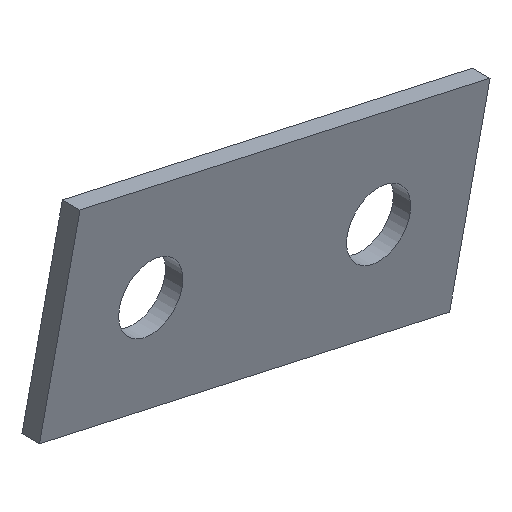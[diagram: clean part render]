
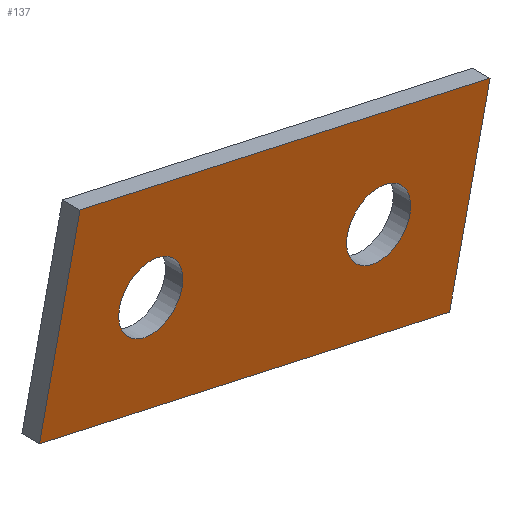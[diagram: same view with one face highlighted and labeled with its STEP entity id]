
A CAD part, isometric view. The second image highlights one B-rep face of the part: STEP entity #137.
In plain terms, the highlighted planar face has unit normal (0, -1, 0).
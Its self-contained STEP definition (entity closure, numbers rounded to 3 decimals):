
#21 = EDGE_CURVE('',#22,#24,#26,.T.);
#22 = VERTEX_POINT('',#23);
#23 = CARTESIAN_POINT('',(-36.611,-18.5,54.414));
#24 = VERTEX_POINT('',#25);
#25 = CARTESIAN_POINT('',(-33.148,-18.5,70.035));
#26 = SURFACE_CURVE('',#27,(#31,#43),.PCURVE_S1.);
#27 = LINE('',#28,#29);
#28 = CARTESIAN_POINT('',(-36.611,-18.5,54.414));
#29 = VECTOR('',#30,1.);
#30 = DIRECTION('',(0.216,0.,0.976));
#31 = PCURVE('',#32,#37);
#32 = PLANE('',#33);
#33 = AXIS2_PLACEMENT_3D('',#34,#35,#36);
#34 = CARTESIAN_POINT('',(-36.611,-18.5,54.414));
#35 = DIRECTION('',(0.976,0.,-0.216));
#36 = DIRECTION('',(0.216,0.,0.976));
#37 = DEFINITIONAL_REPRESENTATION('',(#38),#42);
#38 = LINE('',#39,#40);
#39 = CARTESIAN_POINT('',(0.,0.));
#40 = VECTOR('',#41,1.);
#41 = DIRECTION('',(1.,0.));
#42 = ( GEOMETRIC_REPRESENTATION_CONTEXT(2) 
PARAMETRIC_REPRESENTATION_CONTEXT() REPRESENTATION_CONTEXT('2D SPACE',''
  ) );
#43 = PCURVE('',#44,#49);
#44 = PLANE('',#45);
#45 = AXIS2_PLACEMENT_3D('',#46,#47,#48);
#46 = CARTESIAN_POINT('',(-36.611,-18.5,54.414));
#47 = DIRECTION('',(0.,1.,0.));
#48 = DIRECTION('',(0.216,0.,0.976));
#49 = DEFINITIONAL_REPRESENTATION('',(#50),#54);
#50 = LINE('',#51,#52);
#51 = CARTESIAN_POINT('',(0.,0.));
#52 = VECTOR('',#53,1.);
#53 = DIRECTION('',(1.,0.));
#54 = ( GEOMETRIC_REPRESENTATION_CONTEXT(2) 
PARAMETRIC_REPRESENTATION_CONTEXT() REPRESENTATION_CONTEXT('2D SPACE',''
  ) );
#72 = PLANE('',#73);
#73 = AXIS2_PLACEMENT_3D('',#74,#75,#76);
#74 = CARTESIAN_POINT('',(-36.611,-18.5,54.414));
#75 = DIRECTION('',(0.216,0.,0.976));
#76 = DIRECTION('',(0.976,0.,-0.216));
#126 = PLANE('',#127);
#127 = AXIS2_PLACEMENT_3D('',#128,#129,#130);
#128 = CARTESIAN_POINT('',(-33.148,-18.5,70.035));
#129 = DIRECTION('',(0.216,0.,0.976));
#130 = DIRECTION('',(0.976,0.,-0.216));
#137 = ADVANCED_FACE('',(#138,#213,#248),#44,.F.);
#138 = FACE_BOUND('',#139,.F.);
#139 = EDGE_LOOP('',(#140,#163,#164,#187));
#140 = ORIENTED_EDGE('',*,*,#141,.F.);
#141 = EDGE_CURVE('',#22,#142,#144,.T.);
#142 = VERTEX_POINT('',#143);
#143 = CARTESIAN_POINT('',(-1.464,-18.5,46.622));
#144 = SURFACE_CURVE('',#145,(#149,#156),.PCURVE_S1.);
#145 = LINE('',#146,#147);
#146 = CARTESIAN_POINT('',(-36.611,-18.5,54.414));
#147 = VECTOR('',#148,1.);
#148 = DIRECTION('',(0.976,0.,-0.216));
#149 = PCURVE('',#44,#150);
#150 = DEFINITIONAL_REPRESENTATION('',(#151),#155);
#151 = LINE('',#152,#153);
#152 = CARTESIAN_POINT('',(0.,0.));
#153 = VECTOR('',#154,1.);
#154 = DIRECTION('',(0.,1.));
#155 = ( GEOMETRIC_REPRESENTATION_CONTEXT(2) 
PARAMETRIC_REPRESENTATION_CONTEXT() REPRESENTATION_CONTEXT('2D SPACE',''
  ) );
#156 = PCURVE('',#72,#157);
#157 = DEFINITIONAL_REPRESENTATION('',(#158),#162);
#158 = LINE('',#159,#160);
#159 = CARTESIAN_POINT('',(0.,0.));
#160 = VECTOR('',#161,1.);
#161 = DIRECTION('',(1.,0.));
#162 = ( GEOMETRIC_REPRESENTATION_CONTEXT(2) 
PARAMETRIC_REPRESENTATION_CONTEXT() REPRESENTATION_CONTEXT('2D SPACE',''
  ) );
#163 = ORIENTED_EDGE('',*,*,#21,.T.);
#164 = ORIENTED_EDGE('',*,*,#165,.T.);
#165 = EDGE_CURVE('',#24,#166,#168,.T.);
#166 = VERTEX_POINT('',#167);
#167 = CARTESIAN_POINT('',(1.999,-18.5,62.243));
#168 = SURFACE_CURVE('',#169,(#173,#180),.PCURVE_S1.);
#169 = LINE('',#170,#171);
#170 = CARTESIAN_POINT('',(-33.148,-18.5,70.035));
#171 = VECTOR('',#172,1.);
#172 = DIRECTION('',(0.976,0.,-0.216));
#173 = PCURVE('',#44,#174);
#174 = DEFINITIONAL_REPRESENTATION('',(#175),#179);
#175 = LINE('',#176,#177);
#176 = CARTESIAN_POINT('',(16.,0.));
#177 = VECTOR('',#178,1.);
#178 = DIRECTION('',(0.,1.));
#179 = ( GEOMETRIC_REPRESENTATION_CONTEXT(2) 
PARAMETRIC_REPRESENTATION_CONTEXT() REPRESENTATION_CONTEXT('2D SPACE',''
  ) );
#180 = PCURVE('',#126,#181);
#181 = DEFINITIONAL_REPRESENTATION('',(#182),#186);
#182 = LINE('',#183,#184);
#183 = CARTESIAN_POINT('',(0.,0.));
#184 = VECTOR('',#185,1.);
#185 = DIRECTION('',(1.,0.));
#186 = ( GEOMETRIC_REPRESENTATION_CONTEXT(2) 
PARAMETRIC_REPRESENTATION_CONTEXT() REPRESENTATION_CONTEXT('2D SPACE',''
  ) );
#187 = ORIENTED_EDGE('',*,*,#188,.F.);
#188 = EDGE_CURVE('',#142,#166,#189,.T.);
#189 = SURFACE_CURVE('',#190,(#194,#201),.PCURVE_S1.);
#190 = LINE('',#191,#192);
#191 = CARTESIAN_POINT('',(-1.464,-18.5,46.622));
#192 = VECTOR('',#193,1.);
#193 = DIRECTION('',(0.216,0.,0.976));
#194 = PCURVE('',#44,#195);
#195 = DEFINITIONAL_REPRESENTATION('',(#196),#200);
#196 = LINE('',#197,#198);
#197 = CARTESIAN_POINT('',(0.,36.));
#198 = VECTOR('',#199,1.);
#199 = DIRECTION('',(1.,0.));
#200 = ( GEOMETRIC_REPRESENTATION_CONTEXT(2) 
PARAMETRIC_REPRESENTATION_CONTEXT() REPRESENTATION_CONTEXT('2D SPACE',''
  ) );
#201 = PCURVE('',#202,#207);
#202 = PLANE('',#203);
#203 = AXIS2_PLACEMENT_3D('',#204,#205,#206);
#204 = CARTESIAN_POINT('',(-1.464,-18.5,46.622));
#205 = DIRECTION('',(0.976,0.,-0.216));
#206 = DIRECTION('',(0.216,0.,0.976));
#207 = DEFINITIONAL_REPRESENTATION('',(#208),#212);
#208 = LINE('',#209,#210);
#209 = CARTESIAN_POINT('',(0.,0.));
#210 = VECTOR('',#211,1.);
#211 = DIRECTION('',(1.,0.));
#212 = ( GEOMETRIC_REPRESENTATION_CONTEXT(2) 
PARAMETRIC_REPRESENTATION_CONTEXT() REPRESENTATION_CONTEXT('2D SPACE',''
  ) );
#213 = FACE_BOUND('',#214,.F.);
#214 = EDGE_LOOP('',(#215));
#215 = ORIENTED_EDGE('',*,*,#216,.T.);
#216 = EDGE_CURVE('',#217,#217,#219,.T.);
#217 = VERTEX_POINT('',#218);
#218 = CARTESIAN_POINT('',(-24.384,-18.5,59.897));
#219 = SURFACE_CURVE('',#220,(#225,#236),.PCURVE_S1.);
#220 = CIRCLE('',#221,2.75);
#221 = AXIS2_PLACEMENT_3D('',#222,#223,#224);
#222 = CARTESIAN_POINT('',(-27.069,-18.5,60.493));
#223 = DIRECTION('',(0.,-1.,0.));
#224 = DIRECTION('',(0.976,0.,-0.216));
#225 = PCURVE('',#44,#226);
#226 = DEFINITIONAL_REPRESENTATION('',(#227),#235);
#227 = ( BOUNDED_CURVE() B_SPLINE_CURVE(2,(#228,#229,#230,#231,#232,#233
,#234),.UNSPECIFIED.,.T.,.F.) B_SPLINE_CURVE_WITH_KNOTS((1,2,2,2,2,1),(
    -2.094,0.,2.094,4.189,6.283,
8.378),.UNSPECIFIED.) CURVE() GEOMETRIC_REPRESENTATION_ITEM() 
RATIONAL_B_SPLINE_CURVE((1.,0.5,1.,0.5,1.,0.5,1.)) REPRESENTATION_ITEM(
  '') );
#228 = CARTESIAN_POINT('',(8.,10.75));
#229 = CARTESIAN_POINT('',(12.763,10.75));
#230 = CARTESIAN_POINT('',(10.382,6.625));
#231 = CARTESIAN_POINT('',(8.,2.5));
#232 = CARTESIAN_POINT('',(5.618,6.625));
#233 = CARTESIAN_POINT('',(3.237,10.75));
#234 = CARTESIAN_POINT('',(8.,10.75));
#235 = ( GEOMETRIC_REPRESENTATION_CONTEXT(2) 
PARAMETRIC_REPRESENTATION_CONTEXT() REPRESENTATION_CONTEXT('2D SPACE',''
  ) );
#236 = PCURVE('',#237,#242);
#237 = CYLINDRICAL_SURFACE('',#238,2.75);
#238 = AXIS2_PLACEMENT_3D('',#239,#240,#241);
#239 = CARTESIAN_POINT('',(-27.069,-20.,60.493));
#240 = DIRECTION('',(0.,-1.,-0.));
#241 = DIRECTION('',(0.976,0.,-0.216));
#242 = DEFINITIONAL_REPRESENTATION('',(#243),#247);
#243 = LINE('',#244,#245);
#244 = CARTESIAN_POINT('',(-6.283,-1.5));
#245 = VECTOR('',#246,1.);
#246 = DIRECTION('',(1.,-0.));
#247 = ( GEOMETRIC_REPRESENTATION_CONTEXT(2) 
PARAMETRIC_REPRESENTATION_CONTEXT() REPRESENTATION_CONTEXT('2D SPACE',''
  ) );
#248 = FACE_BOUND('',#249,.F.);
#249 = EDGE_LOOP('',(#250));
#250 = ORIENTED_EDGE('',*,*,#251,.T.);
#251 = EDGE_CURVE('',#252,#252,#254,.T.);
#252 = VERTEX_POINT('',#253);
#253 = CARTESIAN_POINT('',(-4.858,-18.5,55.569));
#254 = SURFACE_CURVE('',#255,(#260,#271),.PCURVE_S1.);
#255 = CIRCLE('',#256,2.75);
#256 = AXIS2_PLACEMENT_3D('',#257,#258,#259);
#257 = CARTESIAN_POINT('',(-7.543,-18.5,56.164));
#258 = DIRECTION('',(0.,-1.,0.));
#259 = DIRECTION('',(0.976,0.,-0.216));
#260 = PCURVE('',#44,#261);
#261 = DEFINITIONAL_REPRESENTATION('',(#262),#270);
#262 = ( BOUNDED_CURVE() B_SPLINE_CURVE(2,(#263,#264,#265,#266,#267,#268
,#269),.UNSPECIFIED.,.T.,.F.) B_SPLINE_CURVE_WITH_KNOTS((1,2,2,2,2,1),(
    -2.094,0.,2.094,4.189,6.283,
8.378),.UNSPECIFIED.) CURVE() GEOMETRIC_REPRESENTATION_ITEM() 
RATIONAL_B_SPLINE_CURVE((1.,0.5,1.,0.5,1.,0.5,1.)) REPRESENTATION_ITEM(
  '') );
#263 = CARTESIAN_POINT('',(8.,30.75));
#264 = CARTESIAN_POINT('',(12.763,30.75));
#265 = CARTESIAN_POINT('',(10.382,26.625));
#266 = CARTESIAN_POINT('',(8.,22.5));
#267 = CARTESIAN_POINT('',(5.618,26.625));
#268 = CARTESIAN_POINT('',(3.237,30.75));
#269 = CARTESIAN_POINT('',(8.,30.75));
#270 = ( GEOMETRIC_REPRESENTATION_CONTEXT(2) 
PARAMETRIC_REPRESENTATION_CONTEXT() REPRESENTATION_CONTEXT('2D SPACE',''
  ) );
#271 = PCURVE('',#272,#277);
#272 = CYLINDRICAL_SURFACE('',#273,2.75);
#273 = AXIS2_PLACEMENT_3D('',#274,#275,#276);
#274 = CARTESIAN_POINT('',(-7.543,-20.,56.164));
#275 = DIRECTION('',(0.,-1.,-0.));
#276 = DIRECTION('',(0.976,0.,-0.216));
#277 = DEFINITIONAL_REPRESENTATION('',(#278),#282);
#278 = LINE('',#279,#280);
#279 = CARTESIAN_POINT('',(-6.283,-1.5));
#280 = VECTOR('',#281,1.);
#281 = DIRECTION('',(1.,-0.));
#282 = ( GEOMETRIC_REPRESENTATION_CONTEXT(2) 
PARAMETRIC_REPRESENTATION_CONTEXT() REPRESENTATION_CONTEXT('2D SPACE',''
  ) );
